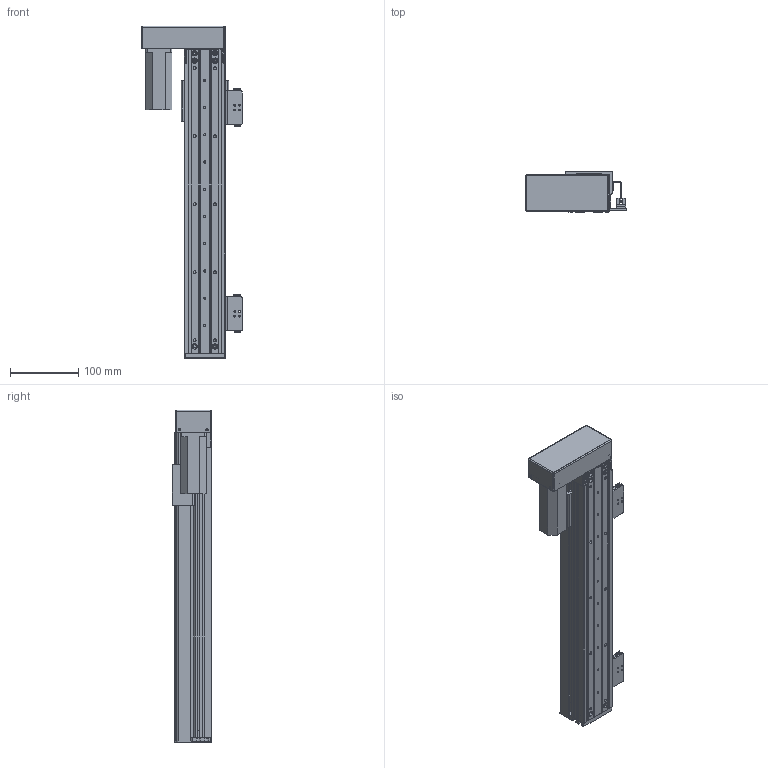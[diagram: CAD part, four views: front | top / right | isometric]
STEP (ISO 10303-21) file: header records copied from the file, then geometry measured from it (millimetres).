
FILE_DESCRIPTION (( 'STEP AP203' ), '1' );
FILE_NAME ('RY60FB-L1210-300-LK.SLDASM_300.step', '2021-02-23T01:00:43', ( '盈信电脑' ), ( '东莞市道滘镇水果街19号' ), 'SwSTEP 2.0', 'SolidWorks 2012', '' );
FILE_SCHEMA (( 'CONFIG_CONTROL_DESIGN' ));
Length unit declared in the file: millimetre
Products named in the file (14): 覜茼ん674; RY60FB-L1210-300-LK.SLDASM_300; RY60FB-674嫖萇耀輸; RY80俋离覜茼え; RY60FB-感应器674光电安装座; RY60FB-蛌殏萇儂欶; RY60FB-左右折电机安装板; 侂狟100W; RY60FB转折电机端支撑座; RY60FB-蛌殏奻裔-300-LK; RY60FB綴裔啣; RY60FB-蛌殏菁釱-300-LK; 滅袉蝶18-10; RY60FB-臏賑輸
Assembly tree (18 placements, depth 3):
  RY60FB-L1210-300-LK.SLDASM_300
    RY60FB-蛌殏菁釱-300-LK
    RY60FB-臏賑輸
    滅袉蝶18-10  x4
    RY60FB-蛌殏奻裔-300-LK
    侂狟100W
    RY60FB綴裔啣
    RY60FB转折电机端支撑座
    RY60FB-左右折电机安装板
    RY60FB-蛌殏萇儂欶
    RY60FB-674嫖萇耀輸  x2
      RY60FB-感应器674光电安装座
      覜茼ん674
    RY80俋离覜茼え
Bounding box: 147.75 x 58.5 x 488 mm (x, y, z)
Volume: 725330.3 mm3; surface area: 394539.5 mm2
Topology: 19 solids, 19 shells, 1149 faces, 3122 edges, 1990 vertices
Faces by surface type: plane 591, cylinder 453, cone 97, bspline 8
Entity records: 30902 total; most frequent: CARTESIAN_POINT 6054, DIRECTION 4892, ORIENTED_EDGE 4796, EDGE_CURVE 2398, AXIS2_PLACEMENT_3D 1702, VERTEX_POINT 1552, LINE 1488, VECTOR 1488
